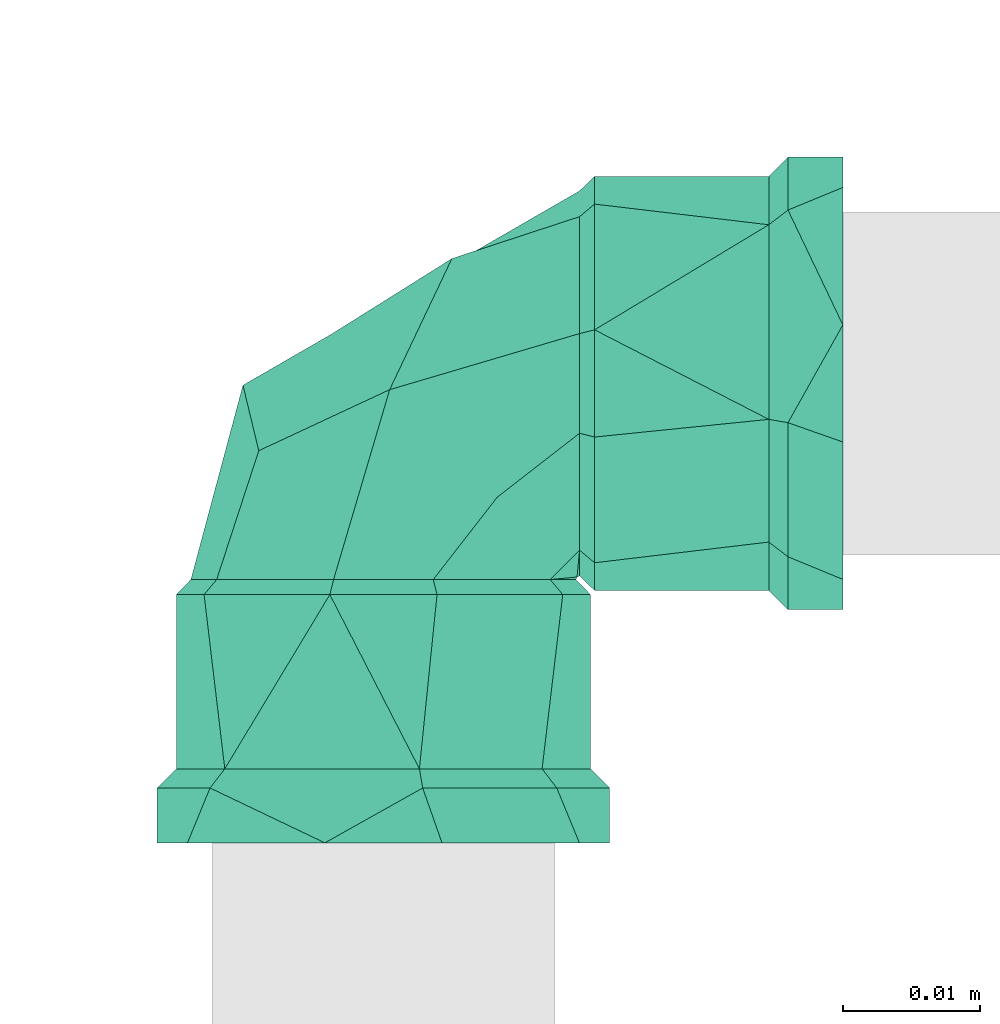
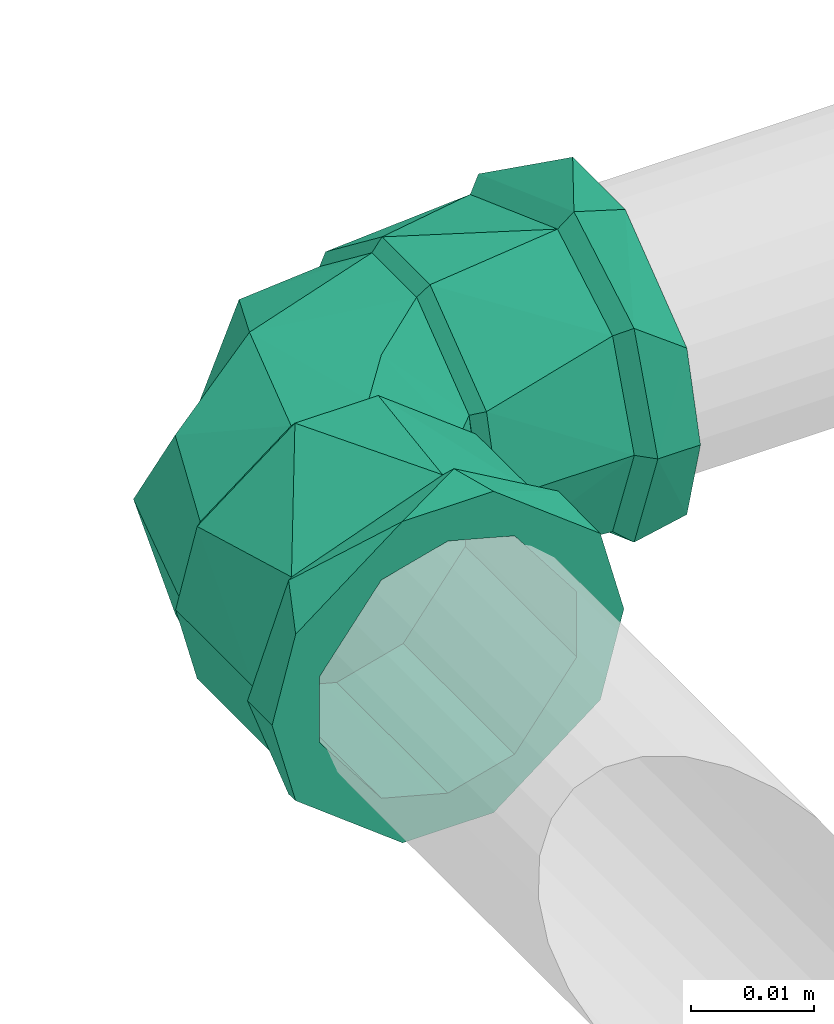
# One storey, part 369 of 589: 1 flow fitting.
"""IFC2X3 building model written with IfcOpenShell, lengths in millimetres."""

from ifc_helpers import new_model, entity, si_unit, converted_unit, derived_unit, direction, frame, origin, place, context, subcontext, project, spatial, faceted_brep, source, transform, mapped, material, type_object, type_shapes, element, save


model = new_model("IFC2X3")

# Units and contexts
model_context = context("Model", 3, precision=0.01, world=origin(), true_north=direction((6.123031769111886e-17, 1.0)))
body_context = subcontext(model_context, "Body", "Model", "MODEL_VIEW")
ifc_project = project(units=[si_unit("LENGTHUNIT", "METRE", prefix="MILLI"), si_unit("AREAUNIT", "SQUARE_METRE"), si_unit("VOLUMEUNIT", "CUBIC_METRE"), converted_unit("PLANEANGLEUNIT", "DEGREE", entity("IfcRatioMeasure", 0.017453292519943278), si_unit("PLANEANGLEUNIT", "RADIAN"), dimensions=[0, 0, 0, 0, 0, 0, 0]), si_unit("MASSUNIT", "GRAM", prefix="KILO"), derived_unit("MASSDENSITYUNIT", [(si_unit("MASSUNIT", "GRAM", prefix="KILO"), 1), (si_unit("LENGTHUNIT", "METRE"), -3)]), derived_unit("IONCONCENTRATIONUNIT", [(si_unit("MASSUNIT", "GRAM", prefix="KILO"), 1), (si_unit("LENGTHUNIT", "METRE"), -3)]), derived_unit("MOMENTOFINERTIAUNIT", [(si_unit("LENGTHUNIT", "METRE"), 4)]), si_unit("TIMEUNIT", "SECOND"), si_unit("FREQUENCYUNIT", "HERTZ"), si_unit("THERMODYNAMICTEMPERATUREUNIT", "DEGREE_CELSIUS"), derived_unit("THERMALTRANSMITTANCEUNIT", [(si_unit("MASSUNIT", "GRAM", prefix="KILO"), 1), (si_unit("THERMODYNAMICTEMPERATUREUNIT", "KELVIN"), -1), (si_unit("TIMEUNIT", "SECOND"), -3)]), derived_unit("THERMALCONDUCTANCEUNIT", [(si_unit("MASSUNIT", "GRAM", prefix="KILO"), 1), (si_unit("THERMODYNAMICTEMPERATUREUNIT", "KELVIN"), -1), (si_unit("TIMEUNIT", "SECOND"), -3), (si_unit("LENGTHUNIT", "METRE"), 1)]), derived_unit("VOLUMETRICFLOWRATEUNIT", [(si_unit("LENGTHUNIT", "METRE"), 3), (si_unit("TIMEUNIT", "SECOND"), -1)]), derived_unit("MASSFLOWRATEUNIT", [(si_unit("MASSUNIT", "GRAM", prefix="KILO"), 1), (si_unit("TIMEUNIT", "SECOND"), -1)]), derived_unit("ROTATIONALFREQUENCYUNIT", [(si_unit("TIMEUNIT", "SECOND"), -1)]), si_unit("ELECTRICCURRENTUNIT", "AMPERE"), si_unit("ELECTRICVOLTAGEUNIT", "VOLT"), si_unit("POWERUNIT", "WATT"), si_unit("FORCEUNIT", "NEWTON", prefix="KILO"), si_unit("ILLUMINANCEUNIT", "LUX"), si_unit("LUMINOUSFLUXUNIT", "LUMEN"), si_unit("LUMINOUSINTENSITYUNIT", "CANDELA"), derived_unit("USERDEFINED", [(si_unit("MASSUNIT", "GRAM", prefix="KILO"), -1), (si_unit("LENGTHUNIT", "METRE"), -2), (si_unit("TIMEUNIT", "SECOND"), 3), (si_unit("LUMINOUSFLUXUNIT", "LUMEN"), 1)]), derived_unit("USERDEFINED", [(si_unit("MASSUNIT", "GRAM", prefix="KILO"), 1), (si_unit("TIMEUNIT", "SECOND"), -3), (si_unit("LENGTHUNIT", "METRE"), 3), (si_unit("ELECTRICCURRENTUNIT", "AMPERE"), -2)]), derived_unit("SOUNDPOWERUNIT", [(si_unit("MASSUNIT", "GRAM", prefix="KILO"), 1), (si_unit("TIMEUNIT", "SECOND"), -3), (si_unit("LENGTHUNIT", "METRE"), 2)]), derived_unit("SOUNDPRESSUREUNIT", [(si_unit("MASSUNIT", "GRAM", prefix="KILO"), 1), (si_unit("LENGTHUNIT", "METRE"), -1), (si_unit("TIMEUNIT", "SECOND"), -2)]), derived_unit("LINEARVELOCITYUNIT", [(si_unit("LENGTHUNIT", "METRE"), 1), (si_unit("TIMEUNIT", "SECOND"), -1)]), si_unit("PRESSUREUNIT", "PASCAL"), derived_unit("USERDEFINED", [(si_unit("MASSUNIT", "GRAM", prefix="KILO"), 1), (si_unit("LENGTHUNIT", "METRE"), -2), (si_unit("TIMEUNIT", "SECOND"), -2)]), derived_unit("LINEARFORCEUNIT", [(si_unit("MASSUNIT", "GRAM", prefix="KILO"), 1), (si_unit("TIMEUNIT", "SECOND"), -2)]), derived_unit("PLANARFORCEUNIT", [(si_unit("MASSUNIT", "GRAM", prefix="KILO"), 1), (si_unit("LENGTHUNIT", "METRE"), -1), (si_unit("TIMEUNIT", "SECOND"), -2)]), derived_unit("SPECIFICHEATCAPACITYUNIT", [(si_unit("THERMODYNAMICTEMPERATUREUNIT", "KELVIN"), -1), (si_unit("LENGTHUNIT", "METRE"), 2), (si_unit("TIMEUNIT", "SECOND"), -2)]), derived_unit("HEATINGVALUEUNIT", [(si_unit("LENGTHUNIT", "METRE"), 2), (si_unit("TIMEUNIT", "SECOND"), -2)]), derived_unit("VAPORPERMEABILITYUNIT", [(si_unit("LENGTHUNIT", "METRE"), -1), (si_unit("TIMEUNIT", "SECOND"), 1)]), derived_unit("DYNAMICVISCOSITYUNIT", [(si_unit("MASSUNIT", "GRAM", prefix="KILO"), 1), (si_unit("TIMEUNIT", "SECOND"), -1), (si_unit("LENGTHUNIT", "METRE"), -1)]), derived_unit("THERMALEXPANSIONCOEFFICIENTUNIT", [(si_unit("THERMODYNAMICTEMPERATUREUNIT", "KELVIN"), -1)]), derived_unit("MODULUSOFELASTICITYUNIT", [(si_unit("MASSUNIT", "GRAM", prefix="KILO"), 1), (si_unit("LENGTHUNIT", "METRE"), -1), (si_unit("TIMEUNIT", "SECOND"), -2)]), derived_unit("ISOTHERMALMOISTURECAPACITYUNIT", [(si_unit("LENGTHUNIT", "METRE"), 3), (si_unit("MASSUNIT", "GRAM", prefix="KILO"), -1)]), derived_unit("MOISTUREDIFFUSIVITYUNIT", [(si_unit("TIMEUNIT", "SECOND"), -1), (si_unit("LENGTHUNIT", "METRE"), 2)])], contexts=[model_context])

# Site, building, storey
site_placement = place(None, origin())
site = spatial("IfcSite", under=ifc_project, at=site_placement, Name="Default", CompositionType="ELEMENT")
building_placement = place(site_placement, origin())
building = spatial("IfcBuilding", under=site, at=building_placement, CompositionType="ELEMENT")
storey_placement = place(building_placement, frame((0.0, 0.0, 100.0)))
storey = spatial("IfcBuildingStorey", under=building, at=storey_placement, Name="TÉRREO", CompositionType="ELEMENT", Elevation=100.0)

# Flow fitting
ifc_material = material(Name="PVC Marrom")
pipe_fitting_type = type_object("IfcPipeFittingType", Name="PVC Marrom Soldável_Joelho 45°_90°_Rodrigo MEP:Joelho", PredefinedType="NOTDEFINED", material=ifc_material)
shared_shape = source(origin(), body_context, "Body", "Brep", [
    faceted_brep([(3.908167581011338, 15.40000000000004, 14.585479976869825), (13.076983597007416, 15.40000000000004, 7.549999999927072), (15.099999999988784, 15.40000000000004, 0.0), (13.076983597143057, 15.40000000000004, -7.55000000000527), (3.9081675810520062, 15.40000000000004, -14.585479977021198), (-3.9081675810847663, 15.40000000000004, -14.585479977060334), (-13.076983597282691, 15.40000000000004, -7.550000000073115), (-15.100000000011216, 15.40000000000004, 0.0), (-13.076983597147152, 15.40000000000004, 7.549999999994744), (-3.908167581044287, 15.40000000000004, 14.585479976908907), (-3.633819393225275, 14.30000000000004, 13.561598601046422), (-12.158996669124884, 14.30000000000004, 7.0199999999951), (-14.040000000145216, 14.30000000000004, 0.0), (-12.158996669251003, 14.30000000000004, -7.020000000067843), (-3.6338193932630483, 14.30000000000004, -13.561598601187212), (3.6338193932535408, 14.30000000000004, -13.561598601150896), (12.158996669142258, 14.30000000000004, -7.020000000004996), (14.039999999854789, 14.30000000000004, 0.0), (12.158996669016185, 14.30000000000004, 7.0199999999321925), (3.6338193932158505, 14.30000000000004, 13.561598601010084)], [[[0, 1, 2, 3, 4, 5, 6, 7, 8, 9]], [[10, 11, 12, 13, 14, 15, 16, 17, 18, 19]], [[3, 17, 16]], [[4, 3, 16, 15]], [[3, 2, 17]], [[15, 14, 5, 4]], [[6, 5, 14, 13]], [[7, 13, 12]], [[7, 6, 13]], [[8, 12, 11]], [[9, 8, 11, 10]], [[8, 7, 12]], [[10, 19, 0, 9]], [[1, 0, 19, 18]], [[2, 18, 17]], [[2, 1, 18]]]),
    faceted_brep([(-15.399999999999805, 3.908167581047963, 14.585479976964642), (-15.399999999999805, 13.076983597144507, 7.549999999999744), (-15.399999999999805, 15.100000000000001, 0.0), (-15.399999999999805, 13.076983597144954, -7.54999999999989), (-15.399999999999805, 3.9081675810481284, -14.58547997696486), (-15.399999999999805, -3.9081675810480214, -14.585479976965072), (-15.399999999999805, -13.0769835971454, -7.550000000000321), (-15.399999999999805, -15.099999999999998, 0.0), (-15.399999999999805, -13.076983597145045, 7.550000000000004), (-15.399999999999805, -3.908167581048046, 14.585479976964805), (-14.299999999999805, 12.158996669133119, 7.019999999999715), (-14.299999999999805, 3.6338193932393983, 13.561598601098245), (-14.299999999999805, -3.633819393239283, 13.56159860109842), (-14.299999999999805, -12.15899666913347, 7.020000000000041), (-14.299999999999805, -14.040000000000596, 0.0), (-14.299999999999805, -12.158996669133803, -7.020000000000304), (-14.299999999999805, -3.63381939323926, -13.561598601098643), (-14.299999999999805, 3.6338193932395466, -13.56159860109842), (-14.299999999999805, 12.158996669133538, -7.019999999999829), (-14.299999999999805, 14.03999999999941, 0.0)], [[[0, 1, 2, 3, 4, 5, 6, 7, 8, 9]], [[10, 11, 12, 13, 14, 15, 16, 17, 18, 19]], [[3, 2, 19, 18]], [[4, 3, 18, 17]], [[17, 16, 5, 4]], [[6, 5, 16, 15]], [[7, 6, 15, 14]], [[8, 7, 14, 13]], [[9, 8, 13, 12]], [[12, 11, 0, 9]], [[1, 0, 11, 10]], [[2, 1, 10, 19]]]),
    faceted_brep([(-33.4999999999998, -4.2705142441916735, -15.937776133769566), (-33.4999999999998, -6.250000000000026, -10.825317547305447), (-33.4999999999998, 0.0, -12.5), (-33.4999999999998, -14.289419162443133, -8.25000000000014), (-33.4999999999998, 4.270514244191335, -15.937776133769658), (-33.4999999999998, -12.074072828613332, -3.23523806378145), (-33.4999999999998, -16.499999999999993, 0.0), (-33.4999999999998, -12.074072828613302, 3.2352380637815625), (-33.4999999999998, -14.289419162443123, 8.249999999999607), (-33.4999999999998, -6.249999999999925, 10.825317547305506), (-33.4999999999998, -4.27051424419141, 15.937776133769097), (-33.4999999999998, 0.0, 12.5), (-33.4999999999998, 4.270514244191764, 15.937776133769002), (-33.4999999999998, 6.249999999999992, 10.825317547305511), (-33.4999999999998, 14.28941916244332, 8.249999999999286), (-33.4999999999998, 12.074072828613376, 3.2352380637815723), (-33.4999999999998, 16.500000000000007, 0.0), (-33.4999999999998, 12.074072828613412, -3.235238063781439), (-33.4999999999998, 14.289419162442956, -8.250000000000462), (-33.4999999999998, 6.250000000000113, -10.82531754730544), (-29.499999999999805, 16.5, 0.0), (-29.500000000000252, 12.639142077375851, 10.606700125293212), (-29.50000000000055, 2.8633833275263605, 16.249647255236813), (-29.50000000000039, -12.64180232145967, 10.603529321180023), (-29.499999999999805, -16.499999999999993, 0.0), (-29.500000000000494, -4.889209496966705, 13.426588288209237), (-29.49999999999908, -12.641802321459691, -10.603529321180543), (-29.49999999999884, -2.8674593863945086, -16.24892847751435), (-29.499999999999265, 12.639142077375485, -10.606700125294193), (-29.499999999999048, 4.885841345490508, -13.427814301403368), (-28.099999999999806, -15.099999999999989, 0.0), (-28.10000000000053, -11.56916454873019, 9.703835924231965), (-28.100000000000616, -4.474367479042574, 12.287362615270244), (-28.1000000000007, 2.6204295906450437, 14.870889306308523), (-28.100000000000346, 11.566730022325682, 9.706737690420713), (-28.09999999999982, 15.099999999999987, 0.0), (-28.099999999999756, 11.566730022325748, -9.706737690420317), (-28.09999999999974, 4.4712851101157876, -12.28848460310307), (-28.09999999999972, -2.6241598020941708, -14.870231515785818), (-28.09999999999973, -11.569164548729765, -9.703835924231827), (-15.399999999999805, 0.0, -12.5), (-15.399999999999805, -6.250000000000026, -10.825317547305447), (-15.399999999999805, -3.908167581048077, -14.585479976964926), (-15.399999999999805, 3.9081675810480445, -14.585479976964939), (-15.399999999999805, 6.250000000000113, -10.82531754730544), (-15.399999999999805, -13.076983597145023, -7.549999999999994), (-15.399999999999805, -12.074072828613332, -3.23523806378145), (-15.399999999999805, -15.099999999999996, 0.0), (-15.399999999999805, -12.074072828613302, 3.2352380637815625), (-15.399999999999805, -13.076983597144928, 7.550000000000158), (-15.399999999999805, -6.249999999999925, 10.825317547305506), (-15.399999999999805, -3.9081675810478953, 14.585479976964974), (-15.399999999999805, 0.0, 12.5), (-15.399999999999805, 3.9081675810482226, 14.58547997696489), (-15.399999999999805, 6.249999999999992, 10.825317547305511), (-15.399999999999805, 13.076983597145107, 7.549999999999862), (-15.399999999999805, 12.074072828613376, 3.2352380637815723), (-15.399999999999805, 15.100000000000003, 0.0), (-15.399999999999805, 12.074072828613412, -3.235238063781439), (-15.399999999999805, 13.076983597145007, -7.550000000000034)], [[[0, 1, 2]], [[1, 0, 3]], [[2, 4, 0]], [[3, 5, 1]], [[3, 6, 5]], [[5, 6, 7]], [[8, 7, 6]], [[7, 8, 9]], [[10, 9, 8]], [[9, 10, 11]], [[11, 10, 12]], [[12, 13, 11]], [[14, 13, 12]], [[13, 14, 15]], [[16, 15, 14]], [[16, 17, 15]], [[18, 17, 16]], [[19, 17, 18]], [[19, 18, 4]], [[4, 2, 19]], [[16, 14, 20]], [[14, 21, 20]], [[21, 14, 12]], [[21, 12, 22]], [[23, 10, 8]], [[24, 8, 6]], [[10, 23, 25, 22]], [[23, 8, 24]], [[10, 22, 12]], [[6, 3, 24]], [[3, 26, 24]], [[26, 3, 0]], [[26, 0, 27]], [[28, 4, 18]], [[20, 18, 16]], [[4, 28, 29, 27]], [[28, 18, 20]], [[4, 27, 0]], [[30, 31, 23, 24]], [[31, 32, 33, 22, 25, 23]], [[34, 35, 20, 21]], [[34, 21, 22, 33]], [[35, 36, 28, 20]], [[36, 37, 38, 27, 29, 28]], [[39, 30, 24, 26]], [[39, 26, 27, 38]], [[40, 41, 42]], [[42, 43, 40]], [[44, 40, 43]], [[45, 42, 41]], [[41, 46, 45]], [[46, 47, 45]], [[48, 47, 46]], [[47, 48, 49]], [[50, 49, 48]], [[49, 50, 51]], [[52, 51, 50]], [[53, 51, 52]], [[52, 54, 53]], [[53, 54, 55]], [[56, 55, 54]], [[55, 56, 57]], [[56, 58, 57]], [[59, 58, 44]], [[57, 58, 59]], [[43, 59, 44]], [[35, 34, 55]], [[35, 55, 57]], [[55, 34, 53]], [[34, 33, 53]], [[51, 33, 32, 31]], [[49, 31, 30]], [[31, 49, 51]], [[49, 30, 47]], [[33, 51, 53]], [[30, 39, 45]], [[30, 45, 47]], [[45, 39, 42]], [[39, 38, 42]], [[43, 38, 37, 36]], [[59, 36, 35]], [[36, 59, 43]], [[59, 35, 57]], [[38, 43, 42]], [[9, 11, 52, 50]], [[7, 9, 50, 48]], [[48, 46, 5, 7]], [[1, 5, 46, 41]], [[2, 1, 41, 40]], [[19, 2, 40, 44]], [[17, 19, 44, 58]], [[58, 56, 15, 17]], [[13, 15, 56, 54]], [[11, 13, 54, 52]]]),
    faceted_brep([(-14.299999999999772, -3.6338193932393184, -13.561598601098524), (-14.299999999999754, -12.158996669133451, -7.020000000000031), (-14.29999999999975, -14.039999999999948, 0.0), (-14.299999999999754, -12.158996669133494, 7.019999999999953), (-14.299999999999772, -3.6338193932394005, 13.561598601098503), (-14.299999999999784, 3.633819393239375, 13.561598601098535), (-14.299999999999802, 12.158996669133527, 7.0200000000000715), (-14.299999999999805, 14.04000000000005, 0.0), (-14.299999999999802, 12.158996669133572, -7.019999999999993), (-14.299999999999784, 3.63381939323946, -13.561598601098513), (3.633819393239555, 14.29999999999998, -13.561598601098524), (-3.633819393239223, 14.300000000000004, -13.561598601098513), (-12.158996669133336, 14.300000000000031, -7.019999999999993), (-14.039999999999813, 14.300000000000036, 0.0), (-12.158996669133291, 14.300000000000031, 7.0200000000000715), (-3.6338193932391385, 14.300000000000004, 13.561598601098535), (3.6338193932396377, 14.29999999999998, 13.561598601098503), (12.158996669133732, 14.299999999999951, 7.019999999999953), (14.040000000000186, 14.299999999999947, 0.0), (12.158996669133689, 14.299999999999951, -7.020000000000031), (-0.45476175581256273, 0.4547603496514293, 13.009299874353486), (-4.991226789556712, -9.102895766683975, 8.866254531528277), (-2.689013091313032, -7.336393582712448, 0.0), (3.7770734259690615, -3.6031967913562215, 0.0), (9.09033094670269, 4.905775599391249, 8.841582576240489), (10.243159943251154, 0.13000000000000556, 0.0), (-14.116152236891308, 14.116152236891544, 0.0), (-8.296884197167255, 8.29688403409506, 12.78130953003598), (-0.454761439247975, 0.45476027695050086, -13.009299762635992), (-8.296884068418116, 8.296883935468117, -12.78130960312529), (9.090330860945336, 4.90577564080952, -8.84158269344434), (-4.991226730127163, -9.10289574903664, -8.866254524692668)], [[[0, 1, 2, 3, 4, 5, 6, 7, 8, 9]], [[10, 11, 12, 13, 14, 15, 16, 17, 18, 19]], [[4, 20, 5]], [[21, 3, 22]], [[20, 4, 21]], [[21, 22, 23]], [[17, 24, 25]], [[26, 6, 14]], [[23, 20, 21]], [[26, 7, 6]], [[6, 5, 27]], [[3, 2, 22]], [[20, 23, 24]], [[25, 18, 17]], [[20, 27, 5]], [[16, 20, 24]], [[17, 16, 24]], [[6, 27, 14]], [[26, 14, 13]], [[21, 4, 3]], [[27, 15, 14]], [[27, 20, 15]], [[23, 25, 24]], [[15, 20, 16]], [[8, 7, 26]], [[28, 29, 11]], [[28, 10, 30]], [[8, 12, 29]], [[31, 22, 1]], [[31, 23, 22]], [[28, 9, 29]], [[19, 30, 10]], [[0, 28, 31]], [[1, 22, 2]], [[8, 26, 12]], [[12, 11, 29]], [[8, 29, 9]], [[31, 1, 0]], [[10, 28, 11]], [[30, 19, 25]], [[0, 9, 28]], [[19, 18, 25]], [[25, 23, 30]], [[23, 31, 28]], [[30, 23, 28]], [[12, 26, 13]]]),
    faceted_brep([(0.0, 15.40000000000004, -12.5), (-6.249999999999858, 15.40000000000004, -10.825317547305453), (-3.908167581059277, 15.40000000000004, -14.585479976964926), (3.9081675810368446, 15.40000000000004, -14.585479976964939), (6.250000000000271, 15.40000000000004, -10.82531754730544), (-13.076983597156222, 15.40000000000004, -7.549999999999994), (-12.07407282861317, 15.40000000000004, -3.235238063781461), (-15.100000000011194, 15.40000000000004, 0.0), (-12.074072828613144, 15.40000000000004, 3.2352380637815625), (-13.076983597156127, 15.40000000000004, 7.550000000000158), (-6.249999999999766, 15.40000000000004, 10.825317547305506), (-3.9081675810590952, 15.40000000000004, 14.585479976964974), (0.0, 15.40000000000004, 12.5), (3.9081675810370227, 15.40000000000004, 14.58547997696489), (6.250000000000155, 15.40000000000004, 10.825317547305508), (13.076983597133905, 15.40000000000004, 7.549999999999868), (12.074072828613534, 15.40000000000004, 3.2352380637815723), (15.099999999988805, 15.40000000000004, 0.0), (12.07407282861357, 15.40000000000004, -3.235238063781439), (13.07698359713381, 15.40000000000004, -7.550000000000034), (15.099999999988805, 28.10000000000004, 0.0), (11.56673002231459, 28.100000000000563, 9.706737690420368), (4.471285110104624, 28.10000000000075, 12.288484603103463), (-2.624159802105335, 28.100000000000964, 14.870231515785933), (-11.569164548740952, 28.10000000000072, 9.703835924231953), (-15.100000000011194, 28.10000000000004, 0.0), (-11.569164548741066, 28.10000000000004, -9.703835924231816), (-4.474367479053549, 28.10000000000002, -12.287362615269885), (2.6204295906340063, 28.099999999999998, -14.870889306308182), (11.566730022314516, 28.10000000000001, -9.706737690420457), (-12.639142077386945, 29.50000000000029, 10.606700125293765), (-16.50000000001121, 29.500000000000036, 0.0), (-2.8633833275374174, 29.50000000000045, 16.249647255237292), (12.641802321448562, 29.500000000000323, 10.603529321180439), (4.889209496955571, 29.500000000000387, 13.426588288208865), (16.499999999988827, 29.50000000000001, 0.0), (12.64180232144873, 29.500000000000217, -10.603529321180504), (2.867459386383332, 29.500000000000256, -16.24892847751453), (-12.639142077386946, 29.500000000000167, -10.606700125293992), (-4.885841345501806, 29.500000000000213, -13.427814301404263), (-4.270514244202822, 33.50000000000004, -15.937776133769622), (-6.249999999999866, 33.50000000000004, -10.825317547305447), (0.0, 33.50000000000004, -12.5), (-14.289419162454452, 33.50000000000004, -8.249999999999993), (4.270514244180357, 33.50000000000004, -15.937776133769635), (-12.074072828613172, 33.50000000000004, -3.23523806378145), (-16.50000000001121, 33.50000000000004, 0.0), (-12.074072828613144, 33.50000000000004, 3.2352380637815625), (-14.28941916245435, 33.50000000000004, 8.250000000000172), (-6.2499999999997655, 33.50000000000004, 10.825317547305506), (-4.270514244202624, 33.50000000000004, 15.937776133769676), (0.0, 33.50000000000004, 12.5), (4.270514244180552, 33.50000000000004, 15.937776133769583), (6.250000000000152, 33.50000000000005, 10.825317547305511), (14.289419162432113, 33.50000000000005, 8.249999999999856), (12.074072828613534, 33.50000000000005, 3.2352380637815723), (16.49999999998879, 33.50000000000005, 0.0), (12.07407282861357, 33.50000000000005, -3.235238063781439), (14.289419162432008, 33.50000000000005, -8.250000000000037), (6.250000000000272, 33.50000000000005, -10.82531754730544)], [[[0, 1, 2]], [[2, 3, 0]], [[4, 0, 3]], [[5, 2, 1]], [[1, 6, 5]], [[6, 7, 5]], [[8, 7, 6]], [[7, 8, 9]], [[10, 9, 8]], [[9, 10, 11]], [[12, 11, 10]], [[13, 11, 12]], [[12, 14, 13]], [[13, 14, 15]], [[16, 15, 14]], [[15, 16, 17]], [[16, 18, 17]], [[19, 18, 4]], [[17, 18, 19]], [[3, 19, 4]], [[20, 21, 15]], [[20, 15, 17]], [[15, 21, 13]], [[13, 21, 22, 23]], [[11, 23, 24]], [[9, 24, 25]], [[24, 9, 11]], [[9, 25, 7]], [[23, 11, 13]], [[25, 26, 5]], [[25, 5, 7]], [[5, 26, 2]], [[2, 26, 27, 28]], [[3, 28, 29]], [[19, 29, 20]], [[29, 19, 3]], [[19, 20, 17]], [[28, 3, 2]], [[24, 23, 30]], [[25, 24, 31]], [[31, 24, 30]], [[23, 32, 30]], [[21, 20, 33]], [[21, 33, 34]], [[22, 32, 23]], [[35, 33, 20]], [[32, 22, 34]], [[22, 21, 34]], [[20, 29, 36]], [[36, 35, 20]], [[37, 36, 29]], [[38, 39, 27]], [[29, 28, 37]], [[26, 25, 31]], [[38, 27, 26]], [[38, 26, 31]], [[28, 39, 37]], [[39, 28, 27]], [[40, 41, 42]], [[41, 40, 43]], [[42, 44, 40]], [[43, 45, 41]], [[43, 46, 45]], [[45, 46, 47]], [[48, 47, 46]], [[47, 48, 49]], [[50, 49, 48]], [[49, 50, 51]], [[51, 50, 52]], [[52, 53, 51]], [[54, 53, 52]], [[53, 54, 55]], [[56, 55, 54]], [[56, 57, 55]], [[58, 57, 56]], [[59, 57, 58]], [[59, 58, 44]], [[44, 42, 59]], [[56, 54, 35]], [[54, 33, 35]], [[33, 54, 52]], [[52, 32, 34, 33]], [[30, 50, 48]], [[31, 48, 46]], [[50, 30, 32]], [[30, 48, 31]], [[50, 32, 52]], [[46, 43, 31]], [[43, 38, 31]], [[38, 43, 40]], [[40, 37, 39, 38]], [[36, 44, 58]], [[35, 58, 56]], [[44, 36, 37]], [[36, 58, 35]], [[44, 37, 40]], [[49, 51, 12, 10]], [[47, 49, 10, 8]], [[8, 6, 45, 47]], [[41, 45, 6, 1]], [[42, 41, 1, 0]], [[59, 42, 0, 4]], [[57, 59, 4, 18]], [[18, 16, 55, 57]], [[53, 55, 16, 14]], [[51, 53, 14, 12]]]),
])
type_shapes(pipe_fitting_type, [shared_shape])
flow_fitting_placement = place(storey_placement, frame((-3231.7598625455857, 1275.9612263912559, 3000.0), z_axis=(0.0, 0.0, 1.0), x_axis=(-1.0, 0.0, 0.0)))
element("IfcFlowFitting", 1, at=flow_fitting_placement, inside=storey, type_object=pipe_fitting_type, material=ifc_material, Name="PVC Marrom Soldável_Joelho 45°_90°_Rodrigo MEP:Joelho", ObjectType="PVC Marrom Soldável_Joelho 45°_90°_Rodrigo MEP:Joelho", context=body_context, shape_type="MappedRepresentation", body=[
    mapped(shared_shape, transform((0.0, 0.0, 0.0), scale=1.0)),
])

save(model, "model.ifc")
